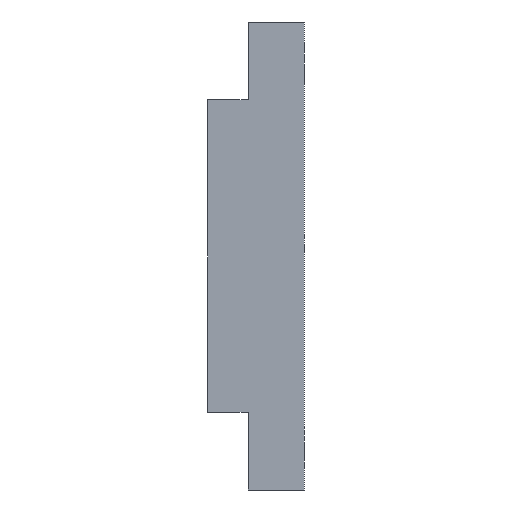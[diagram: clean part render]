
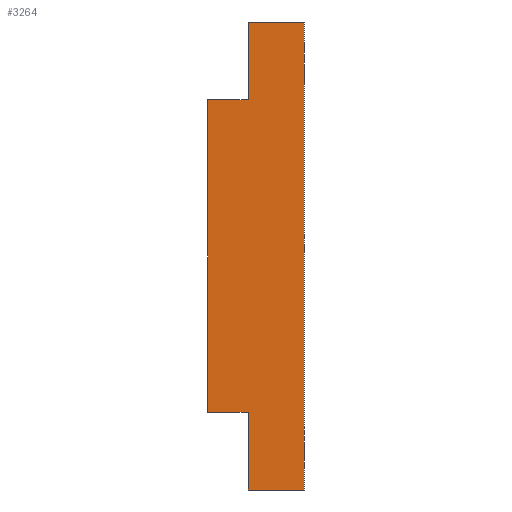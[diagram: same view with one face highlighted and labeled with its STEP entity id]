
A CAD part, left-side view. The second image highlights one B-rep face of the part: STEP entity #3264.
In plain terms, the highlighted planar face has unit normal (-1, 0, 0).
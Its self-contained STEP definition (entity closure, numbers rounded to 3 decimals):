
#212 = ORIENTED_EDGE ( 'NONE', *, *, #3396, .F. ) ;
#303 = CARTESIAN_POINT ( 'NONE',  ( -200., 10.3, 16.7 ) ) ;
#373 = DIRECTION ( 'NONE',  ( 0., 0., 1. ) ) ;
#374 = LINE ( 'NONE', #824, #1007 ) ;
#427 = ORIENTED_EDGE ( 'NONE', *, *, #1273, .F. ) ;
#428 = ORIENTED_EDGE ( 'NONE', *, *, #2007, .F. ) ;
#430 = LINE ( 'NONE', #2671, #2286 ) ;
#546 = ORIENTED_EDGE ( 'NONE', *, *, #3047, .T. ) ;
#623 = CARTESIAN_POINT ( 'NONE',  ( -200., 6., 16.7 ) ) ;
#665 = DIRECTION ( 'NONE',  ( 0., -1., 0. ) ) ;
#751 = CARTESIAN_POINT ( 'NONE',  ( -200., 0., 25. ) ) ;
#798 = LINE ( 'NONE', #751, #1071 ) ;
#824 = CARTESIAN_POINT ( 'NONE',  ( -200., 10.3, 16.7 ) ) ;
#872 = DIRECTION ( 'NONE',  ( 0., -1., 0. ) ) ;
#971 = ORIENTED_EDGE ( 'NONE', *, *, #2052, .F. ) ;
#991 = VERTEX_POINT ( 'NONE', #4030 ) ;
#1007 = VECTOR ( 'NONE', #373, 1000. ) ;
#1034 = ORIENTED_EDGE ( 'NONE', *, *, #2058, .F. ) ;
#1071 = VECTOR ( 'NONE', #4082, 1000. ) ;
#1089 = LINE ( 'NONE', #2852, #4609 ) ;
#1122 = LINE ( 'NONE', #2626, #2109 ) ;
#1212 = VERTEX_POINT ( 'NONE', #303 ) ;
#1256 = AXIS2_PLACEMENT_3D ( 'NONE', #3111, #2270, #3788 ) ;
#1273 = EDGE_CURVE ( 'NONE', #4727, #1212, #374, .T. ) ;
#1303 = LINE ( 'NONE', #1657, #4646 ) ;
#1337 = EDGE_CURVE ( 'NONE', #4727, #1733, #1122, .T. ) ;
#1615 = CARTESIAN_POINT ( 'NONE',  ( -200., 10.3, 16.7 ) ) ;
#1657 = CARTESIAN_POINT ( 'NONE',  ( -200., 6., 25. ) ) ;
#1688 = FACE_OUTER_BOUND ( 'NONE', #2040, .T. ) ;
#1733 = VERTEX_POINT ( 'NONE', #4017 ) ;
#1754 = VERTEX_POINT ( 'NONE', #3636 ) ;
#1797 = LINE ( 'NONE', #1975, #4828 ) ;
#1975 = CARTESIAN_POINT ( 'NONE',  ( -200., 6., 25. ) ) ;
#2007 = EDGE_CURVE ( 'NONE', #4663, #3014, #430, .T. ) ;
#2040 = EDGE_LOOP ( 'NONE', ( #546, #212, #428, #1034, #427, #2309, #971, #3103 ) ) ;
#2052 = EDGE_CURVE ( 'NONE', #991, #1733, #1303, .T. ) ;
#2058 = EDGE_CURVE ( 'NONE', #1212, #4663, #4347, .T. ) ;
#2109 = VECTOR ( 'NONE', #3012, 1000. ) ;
#2270 = DIRECTION ( 'NONE',  ( 1., 0., 0. ) ) ;
#2286 = VECTOR ( 'NONE', #3375, 1000. ) ;
#2309 = ORIENTED_EDGE ( 'NONE', *, *, #1337, .T. ) ;
#2432 = CARTESIAN_POINT ( 'NONE',  ( -200., 0., 25. ) ) ;
#2626 = CARTESIAN_POINT ( 'NONE',  ( -200., 10.3, -16.7 ) ) ;
#2671 = CARTESIAN_POINT ( 'NONE',  ( -200., 6., 25. ) ) ;
#2852 = CARTESIAN_POINT ( 'NONE',  ( -200., 6., -25. ) ) ;
#3012 = DIRECTION ( 'NONE',  ( 0., -1., 0. ) ) ;
#3014 = VERTEX_POINT ( 'NONE', #4068 ) ;
#3047 = EDGE_CURVE ( 'NONE', #1754, #3894, #798, .T. ) ;
#3103 = ORIENTED_EDGE ( 'NONE', *, *, #3501, .T. ) ;
#3111 = CARTESIAN_POINT ( 'NONE',  ( -200., 6., 25. ) ) ;
#3224 = VECTOR ( 'NONE', #872, 1000. ) ;
#3264 = ADVANCED_FACE ( 'NONE', ( #1688 ), #3459, .F. ) ;
#3375 = DIRECTION ( 'NONE',  ( 0., 0., 1. ) ) ;
#3396 = EDGE_CURVE ( 'NONE', #3014, #3894, #1797, .T. ) ;
#3459 = PLANE ( 'NONE',  #1256 ) ;
#3501 = EDGE_CURVE ( 'NONE', #991, #1754, #1089, .T. ) ;
#3549 = CARTESIAN_POINT ( 'NONE',  ( -200., 10.3, -16.7 ) ) ;
#3636 = CARTESIAN_POINT ( 'NONE',  ( -200., 0., -25. ) ) ;
#3788 = DIRECTION ( 'NONE',  ( 0., 0., -1. ) ) ;
#3877 = DIRECTION ( 'NONE',  ( 0., 0., 1. ) ) ;
#3894 = VERTEX_POINT ( 'NONE', #2432 ) ;
#4017 = CARTESIAN_POINT ( 'NONE',  ( -200., 6., -16.7 ) ) ;
#4030 = CARTESIAN_POINT ( 'NONE',  ( -200., 6., -25. ) ) ;
#4068 = CARTESIAN_POINT ( 'NONE',  ( -200., 6., 25. ) ) ;
#4082 = DIRECTION ( 'NONE',  ( 0., 0., 1. ) ) ;
#4347 = LINE ( 'NONE', #1615, #3224 ) ;
#4608 = DIRECTION ( 'NONE',  ( 0., -1., 0. ) ) ;
#4609 = VECTOR ( 'NONE', #665, 1000. ) ;
#4646 = VECTOR ( 'NONE', #3877, 1000. ) ;
#4663 = VERTEX_POINT ( 'NONE', #623 ) ;
#4727 = VERTEX_POINT ( 'NONE', #3549 ) ;
#4828 = VECTOR ( 'NONE', #4608, 1000. ) ;
